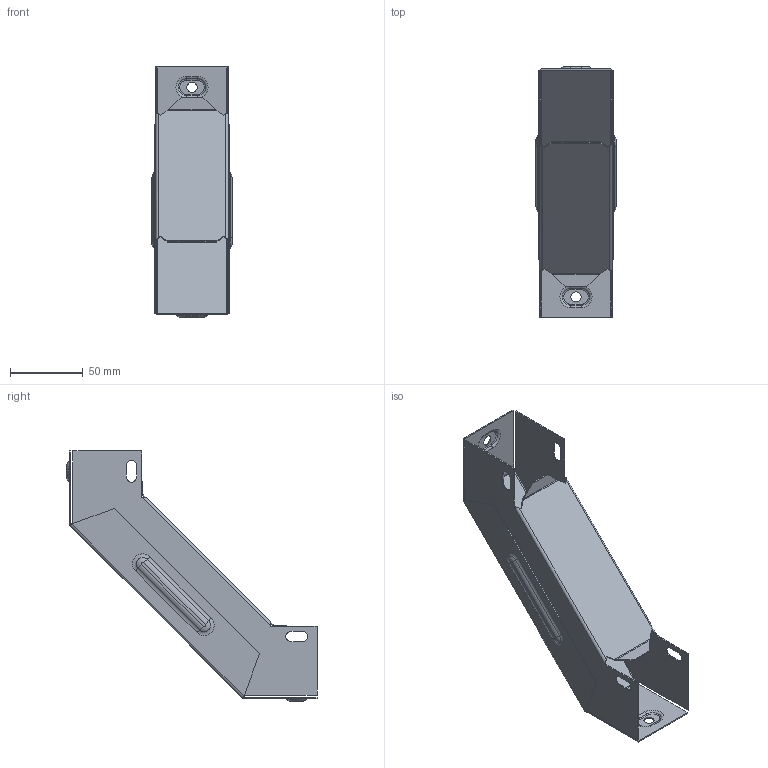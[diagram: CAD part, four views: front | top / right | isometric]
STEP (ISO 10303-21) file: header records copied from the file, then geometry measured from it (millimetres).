
FILE_DESCRIPTION (( 'STEP AP214' ), '1' );
FILE_NAME ('vo905050_捘.STEP', '2019-06-10T08:53:08', ( '砐錪賧瘔蠈錪 Windows' ), ( '' ), 'SwSTEP 2.0', 'SolidWorks 2018', '' );
FILE_SCHEMA (( 'AUTOMOTIVE_DESIGN' ));
Length unit declared in the file: millimetre
Products named in the file (1): vo905050_捘
Bounding box: 55.6 x 172.3 x 172.3 mm (x, y, z)
Volume: 40596.2 mm3; surface area: 103010.2 mm2
Topology: 2 solids, 2 shells, 222 faces, 514 edges, 308 vertices
Faces by surface type: plane 88, cylinder 78, torus 48, bspline 8
Entity records: 6465 total; most frequent: CARTESIAN_POINT 1293, DIRECTION 1124, ORIENTED_EDGE 1028, EDGE_CURVE 514, AXIS2_PLACEMENT_3D 427, VERTEX_POINT 308, VECTOR 270, LINE 270
